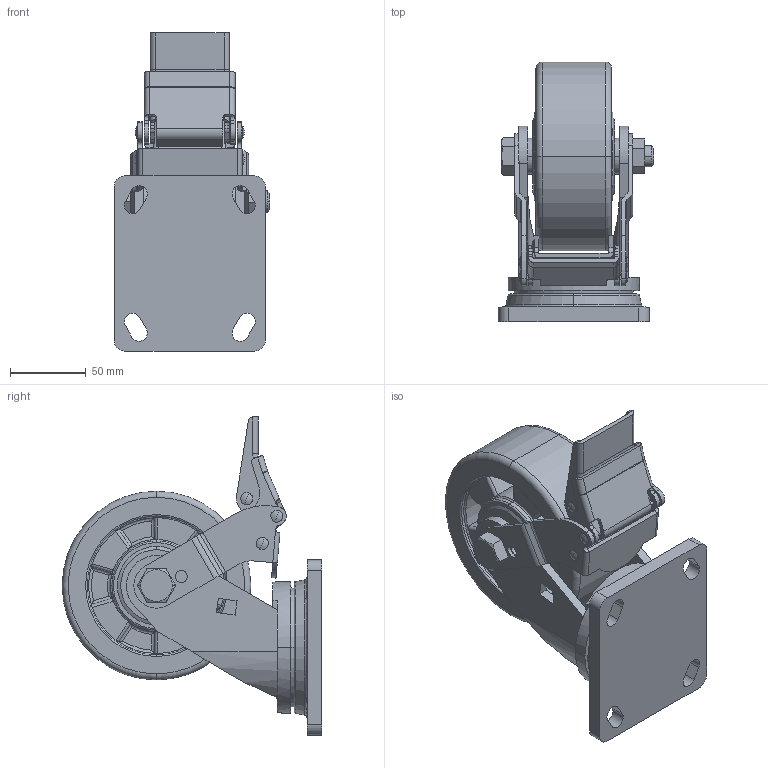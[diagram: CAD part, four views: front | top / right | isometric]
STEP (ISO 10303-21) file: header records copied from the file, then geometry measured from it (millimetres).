
FILE_DESCRIPTION((''),'2;1');
FILE_NAME('78125E-785-86A_ASM','2020-07-08T',('lenovo'),(''),'PRO/ENGINEER BY PARAMETRIC TECHNOLOGY CORPORATION, 2010280','PRO/ENGINEER BY PARAMETRIC TECHNOLOGY CORPORATION, 2010280','');
FILE_SCHEMA(('CONFIG_CONTROL_DESIGN'));
Length unit declared in the file: millimetre
Products named in the file (15): PRT0005; PRODUCT_21275; PRODUCT_32464; PRT0081; PRT0082; PRT0083; 780F-33-; PRT0085; PRT0086; PRT0087; PRT0088; PRODUCT_121971; 78125E-785-86A__________ASM_ASM; 78125E-785-86A__ASM_ASM; 78125E-785-86A_ASM
Assembly tree (18 placements, depth 4):
  78125E-785-86A_ASM
    78125E-785-86A__ASM_ASM
      78125E-785-86A__________ASM_ASM
        PRT0005
        PRODUCT_21275  x5
        PRODUCT_32464
        PRT0081
        PRT0082
        PRT0083
        780F-33-
        PRT0085
        PRT0086
        PRT0087
        PRT0088
        PRODUCT_121971
Bounding box: 103 x 172 x 210.67 mm (x, y, z)
Volume: 775965.6 mm3; surface area: 194584.5 mm2
Topology: 16 solids, 16 shells, 541 faces, 1371 edges, 873 vertices
Faces by surface type: cylinder 241, plane 204, torus 60, cone 14, sphere 12, bspline 10
Entity records: 17631 total; most frequent: CARTESIAN_POINT 4320, DIRECTION 2875, ORIENTED_EDGE 2662, EDGE_CURVE 1331, AXIS2_PLACEMENT_3D 1116, VERTEX_POINT 845, VECTOR 643, LINE 643
